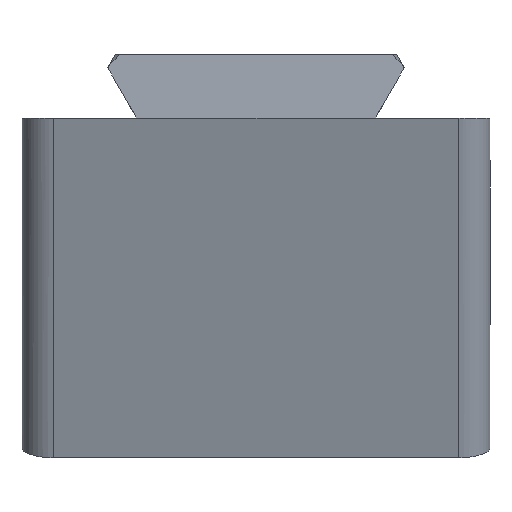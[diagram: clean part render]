
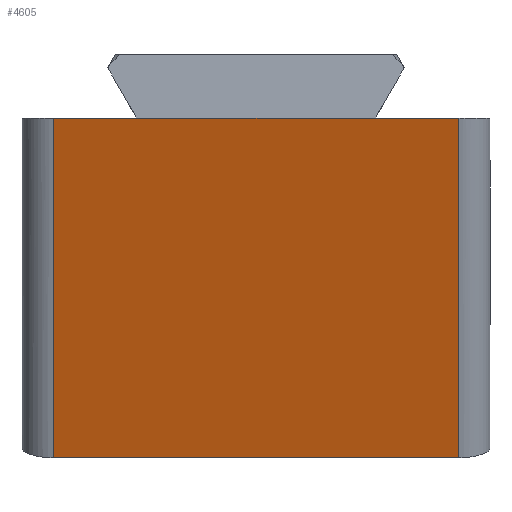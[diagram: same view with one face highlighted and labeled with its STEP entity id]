
A CAD part, left-side view. The second image highlights one B-rep face of the part: STEP entity #4605.
In plain terms, the highlighted planar face has unit normal (-0.951, 0, -0.309).
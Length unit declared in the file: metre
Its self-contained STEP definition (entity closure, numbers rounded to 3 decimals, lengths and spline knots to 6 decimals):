
#690=ORIENTED_EDGE('',*,*,#1890,.T.);
#691=ORIENTED_EDGE('',*,*,#2057,.T.);
#692=ORIENTED_EDGE('',*,*,#1822,.F.);
#693=ORIENTED_EDGE('',*,*,#2058,.T.);
#694=ORIENTED_EDGE('',*,*,#1902,.T.);
#695=ORIENTED_EDGE('',*,*,#2052,.T.);
#1822=EDGE_CURVE('',#2523,#2524,#2990,.T.);
#1890=EDGE_CURVE('',#2582,#2589,#3033,.T.);
#1902=EDGE_CURVE('',#2598,#2574,#3039,.T.);
#2052=EDGE_CURVE('',#2574,#2582,#3113,.T.);
#2057=EDGE_CURVE('',#2589,#2524,#3114,.T.);
#2058=EDGE_CURVE('',#2523,#2598,#3115,.F.);
#2523=VERTEX_POINT('',#6184);
#2524=VERTEX_POINT('',#6186);
#2574=VERTEX_POINT('',#6293);
#2582=VERTEX_POINT('',#6311);
#2589=VERTEX_POINT('',#6328);
#2598=VERTEX_POINT('',#6350);
#2990=LINE('',#6185,#3421);
#3033=LINE('',#6329,#3464);
#3039=LINE('',#6349,#3470);
#3113=LINE('',#6744,#3544);
#3114=LINE('',#6756,#3545);
#3115=LINE('',#6757,#3546);
#3421=VECTOR('',#5166,1.);
#3464=VECTOR('',#5279,1.);
#3470=VECTOR('',#5297,1.);
#3544=VECTOR('',#5439,1.);
#3545=VECTOR('',#5458,1.);
#3546=VECTOR('',#5459,1.);
#3893=EDGE_LOOP('',(#690,#691,#692,#693,#694,#695));
#4194=FACE_BOUND('',#3893,.T.);
#4468=PLANE('',#4945);
#4605=ADVANCED_FACE('',(#4194),#4468,.F.);
#4945=AXIS2_PLACEMENT_3D('',#6755,#5456,#5457);
#5166=DIRECTION('',(0.,1.,0.));
#5279=DIRECTION('',(0.,1.,0.));
#5297=DIRECTION('',(0.,1.,0.));
#5439=DIRECTION('',(0.,1.,0.));
#5456=DIRECTION('',(0.951,0.,0.309));
#5457=DIRECTION('',(0.309,0.,-0.951));
#5458=DIRECTION('',(0.309,0.,-0.951));
#5459=DIRECTION('',(0.309,0.,-0.951));
#6184=CARTESIAN_POINT('',(0.007067,-0.013,-0.021751));
#6185=CARTESIAN_POINT('',(0.007067,-0.015,-0.021751));
#6186=CARTESIAN_POINT('',(0.007067,0.013,-0.021751));
#6293=CARTESIAN_POINT('',(0.,-0.007695,0.));
#6311=CARTESIAN_POINT('',(0.,0.007695,0.));
#6328=CARTESIAN_POINT('',(0.,0.013,0.));
#6329=CARTESIAN_POINT('',(0.,-0.015,0.));
#6349=CARTESIAN_POINT('',(0.,-0.015,0.));
#6350=CARTESIAN_POINT('',(0.,-0.013,0.));
#6744=CARTESIAN_POINT('',(0.,0.,0.));
#6755=CARTESIAN_POINT('',(0.003534,-0.015,-0.010876));
#6756=CARTESIAN_POINT('',(0.003534,0.013,-0.010876));
#6757=CARTESIAN_POINT('',(0.,-0.013,0.));
